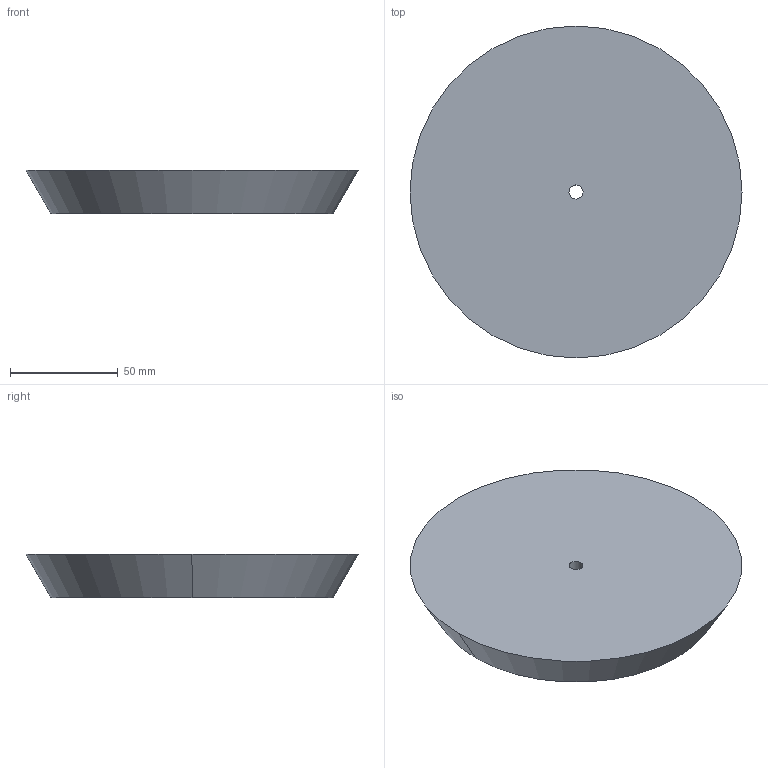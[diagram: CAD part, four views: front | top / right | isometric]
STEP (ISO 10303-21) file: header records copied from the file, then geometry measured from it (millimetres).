
FILE_DESCRIPTION(('CATIA V5 STEP Exchange'),'2;1');
FILE_NAME('C:\Users\andres.garcia\OneDrive - IQS\ASIGNATURAS\DAO\Controles\2223\c0\c1-ORIOL_Santiago-tapon.stp','2023-02-03T08:22:06+00:00',('none'),('none'),'CATIA Version 5-6 Release 2013 SP6','CATIA V5 STEP AP203','none');
FILE_SCHEMA(('CONFIG_CONTROL_DESIGN'));
Length unit declared in the file: millimetre
Products named in the file (1): c1-ORIOL_Santiago-tapon
Bounding box: 154 x 154 x 20 mm (x, y, z)
Volume: 318793.9 mm3; surface area: 42762.7 mm2
Topology: 1 solids, 1 shells, 6 faces, 12 edges, 8 vertices
Faces by surface type: cylinder 2, plane 2, cone 2
Entity records: 196 total; most frequent: CARTESIAN_POINT 26, ORIENTED_EDGE 24, DIRECTION 22, AXIS2_PLACEMENT_3D 14, EDGE_CURVE 12, CIRCLE 8, EDGE_LOOP 8, VERTEX_POINT 8
